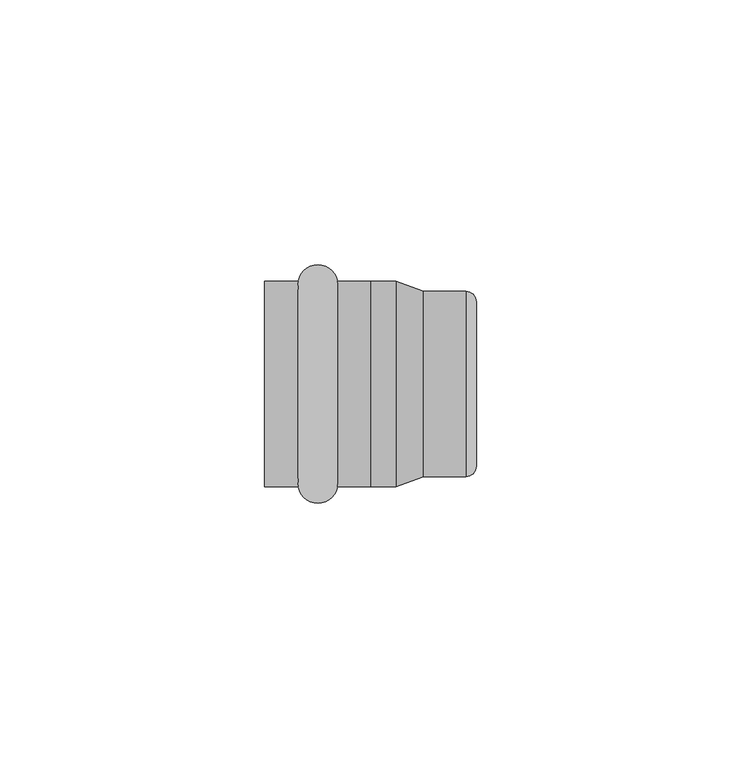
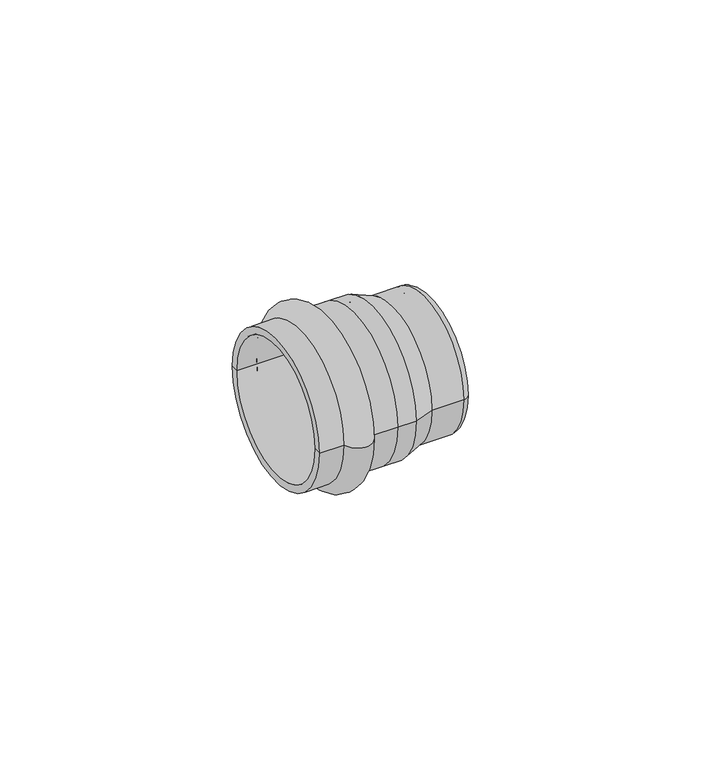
"""IFC4 building model written with IfcOpenShell, lengths in millimetres: pipe fitting geometry, VALTEC_VTi.961.I_Заглушка_нержавеющая : VTi.961.I."""

from ifc_helpers import new_model, si_unit, point, frame, origin, place, context, project, spatial, polyline, circle_curve, ellipse_curve, trimmed, source, transform, mapped, element, save
from ifc_brep_helpers import plane_surface, cylinder_surface, revolved_surface, advanced_brep


def pipe_fitting_70ba1705(model_context):
    return source(origin(), model_context, "Body", "AdvancedBrep", [
        advanced_brep(
        [(6.3567629, -19.4, 0.0), (6.3567629, 19.4, 0.0), (13.7432371, 19.4, 0.0), (13.7432371, -19.4, 0.0), (0.0, -19.4, 0.0), (0.0, 19.4, 0.0), (0.0, -17.5, 0.0), (0.0, 17.5, 0.0), (20.0, -17.5, 0.0), (20.0, 17.5, 0.0), (20.0, -19.4, 0.0), (20.0, 19.4, 0.0)],
        [
            (0, 1, circle_curve(frame((6.3567629, 0.0, 0.0), z_axis=(1.0, 0.0, 0.0), x_axis=(0.0, 1.0, 0.0)), 19.4)),
            (1, 2, circle_curve(frame((10.05, 18.75, 0.0), z_axis=(0.0, 0.0, -1.0), x_axis=(1.0, 0.0, 0.0)), 3.75)),
            (2, 3, circle_curve(frame((13.7432371, 0.0, 0.0), z_axis=(-1.0, 0.0, 0.0), x_axis=(0.0, 1.0, 0.0)), 19.4)),
            (3, 0, circle_curve(frame((10.05, -18.75, 0.0), z_axis=(0.0, 0.0, -1.0), x_axis=(1.0, 0.0, 0.0)), 3.75)),
            (1, 0, circle_curve(frame((6.3567629, 0.0, 0.0), z_axis=(1.0, 0.0, 0.0), x_axis=(0.0, 1.0, 0.0)), 19.4)),
            (3, 2, circle_curve(frame((13.7432371, 0.0, 0.0), z_axis=(-1.0, 0.0, 0.0), x_axis=(0.0, 1.0, 0.0)), 19.4)),
            (4, 5, circle_curve(frame((0.0, 0.0, 0.0), z_axis=(1.0, 0.0, 0.0), x_axis=(0.0, 1.0, 0.0)), 19.4)),
            (5, 1),
            (0, 4),
            (5, 4, circle_curve(frame((0.0, 0.0, 0.0), z_axis=(1.0, 0.0, 0.0), x_axis=(0.0, 1.0, 0.0)), 19.4)),
            (6, 7, circle_curve(frame((0.0, 0.0, 0.0), z_axis=(1.0, 0.0, 0.0), x_axis=(0.0, 1.0, 0.0)), 17.5)),
            (7, 5),
            (4, 6),
            (7, 6, circle_curve(frame((0.0, 0.0, 0.0), z_axis=(1.0, 0.0, 0.0), x_axis=(0.0, 1.0, 0.0)), 17.5)),
            (8, 9, circle_curve(frame((20.0, 0.0, 0.0), z_axis=(1.0, 0.0, 0.0), x_axis=(0.0, 1.0, 0.0)), 17.5)),
            (9, 7),
            (6, 8),
            (9, 8, circle_curve(frame((20.0, 0.0, 0.0), z_axis=(1.0, 0.0, 0.0), x_axis=(0.0, 1.0, 0.0)), 17.5)),
            (10, 11, circle_curve(frame((20.0, 0.0, 0.0), z_axis=(1.0, 0.0, 0.0), x_axis=(0.0, 1.0, 0.0)), 19.4)),
            (11, 9),
            (8, 10),
            (11, 10, circle_curve(frame((20.0, 0.0, 0.0), z_axis=(1.0, 0.0, 0.0), x_axis=(0.0, 1.0, 0.0)), 19.4)),
            (2, 11),
            (10, 3),
        ],
        [
            revolved_surface(trimmed(ellipse_curve(frame((10.05, 18.75, 0.0), z_axis=(0.0, 0.0, 1.0), x_axis=(1.0, 0.0, 0.0)), 3.75, 3.75), [point((13.7432371, 19.4, 0.0))], [point((6.3567629, 19.4, 0.0))], True, "CARTESIAN"), (-3.5364426, 0.0, 0.0), (-1.0, 0.0, 0.0)),
            cylinder_surface(frame((-3.5364426, 0.0, 0.0), z_axis=(-1.0, 0.0, 0.0), x_axis=(0.0, 1.0, 0.0)), 19.4),
            plane_surface(frame((0.0, 0.0, 0.0), z_axis=(-1.0, 0.0, 0.0), x_axis=(0.0, 1.0, 0.0))),
            revolved_surface(polyline([(0.0, 17.5, 0.0), (20.0, 17.5, 0.0)]), (-3.5364426, 0.0, 0.0), (-1.0, 0.0, 0.0)),
            plane_surface(frame((20.0, 0.0, 0.0), z_axis=(1.0, 0.0, 0.0), x_axis=(0.0, 1.0, 0.0))),
        ],
        [
            (0, [[1, 2, 3, 4]]),
            (0, [[5, -4, 6, -2]]),
            (1, [[7, 8, -1, 9]]),
            (1, [[10, -9, -5, -8]]),
            (2, [[11, 12, -7, 13]]),
            (2, [[14, -13, -10, -12]]),
            (3, [[15, 16, -11, 17]]),
            (3, [[18, -17, -14, -16]]),
            (4, [[19, 20, -15, 21]]),
            (4, [[22, -21, -18, -20]]),
            (1, [[-3, 23, -19, 24]]),
            (1, [[-6, -24, -22, -23]]),
        ],
    ),
        advanced_brep(
        [(20.0, -19.4, 0.0), (20.0, 19.4, 0.0), (24.7797929, 19.4, 0.0), (24.7797929, -19.4, 0.0), (24.7797929, -17.5, 0.0), (24.7797929, 17.5, 0.0), (20.0, 17.5, 0.0), (20.0, -17.5, 0.0), (38.1, -15.6, 0.0), (38.1, 15.6, 0.0), (30.0, 15.6, 0.0), (30.0, -15.6, 0.0), (38.1, 0.0, 0.0), (40.0, -15.5, 0.0), (40.0, 15.5, 0.0), (40.0, 0.0, 0.0), (30.0, -17.5, 0.0), (30.0, 17.5, 0.0), (38.0, 17.5, 0.0), (38.0, -17.5, 0.0)],
        [
            (0, 1, circle_curve(frame((20.0, 0.0, 0.0), z_axis=(1.0, 0.0, 0.0), x_axis=(0.0, 1.0, 0.0)), 19.4)),
            (1, 2),
            (2, 3, circle_curve(frame((24.7797929, 0.0, 0.0), z_axis=(-1.0, 0.0, 0.0), x_axis=(0.0, 1.0, 0.0)), 19.4)),
            (3, 0),
            (1, 0, circle_curve(frame((20.0, 0.0, 0.0), z_axis=(1.0, 0.0, 0.0), x_axis=(0.0, 1.0, 0.0)), 19.4)),
            (3, 2, circle_curve(frame((24.7797929, 0.0, 0.0), z_axis=(-1.0, 0.0, 0.0), x_axis=(0.0, 1.0, 0.0)), 19.4)),
            (4, 5, circle_curve(frame((24.7797929, 0.0, 0.0), z_axis=(1.0, 0.0, 0.0), x_axis=(0.0, 1.0, 0.0)), 17.5)),
            (5, 6),
            (6, 7, circle_curve(frame((20.0, 0.0, 0.0), z_axis=(-1.0, 0.0, 0.0), x_axis=(0.0, 1.0, 0.0)), 17.5)),
            (7, 4),
            (5, 4, circle_curve(frame((24.7797929, 0.0, 0.0), z_axis=(1.0, 0.0, 0.0), x_axis=(0.0, 1.0, 0.0)), 17.5)),
            (7, 6, circle_curve(frame((20.0, 0.0, 0.0), z_axis=(-1.0, 0.0, 0.0), x_axis=(0.0, 1.0, 0.0)), 17.5)),
            (6, 1),
            (0, 7),
            (8, 9, circle_curve(frame((38.1, 0.0, 0.0), z_axis=(1.0, 0.0, 0.0), x_axis=(0.0, 1.0, 0.0)), 15.6)),
            (9, 10),
            (10, 11, circle_curve(frame((30.0, 0.0, 0.0), z_axis=(-1.0, 0.0, 0.0), x_axis=(0.0, 1.0, 0.0)), 15.6)),
            (11, 8),
            (9, 8, circle_curve(frame((38.1, 0.0, 0.0), z_axis=(1.0, 0.0, 0.0), x_axis=(0.0, 1.0, 0.0)), 15.6)),
            (11, 10, circle_curve(frame((30.0, 0.0, 0.0), z_axis=(-1.0, 0.0, 0.0), x_axis=(0.0, 1.0, 0.0)), 15.6)),
            (12, 9),
            (8, 12),
            (13, 14, circle_curve(frame((40.0, 0.0, 0.0), z_axis=(1.0, 0.0, 0.0), x_axis=(0.0, 1.0, 0.0)), 15.5)),
            (14, 15),
            (15, 13),
            (14, 13, circle_curve(frame((40.0, 0.0, 0.0), z_axis=(1.0, 0.0, 0.0), x_axis=(0.0, 1.0, 0.0)), 15.5)),
            (16, 17, circle_curve(frame((30.0, 0.0, 0.0), z_axis=(1.0, 0.0, 0.0), x_axis=(0.0, 1.0, 0.0)), 17.5)),
            (17, 18),
            (18, 19, circle_curve(frame((38.0, 0.0, 0.0), z_axis=(-1.0, 0.0, 0.0), x_axis=(0.0, 1.0, 0.0)), 17.5)),
            (19, 16),
            (17, 16, circle_curve(frame((30.0, 0.0, 0.0), z_axis=(1.0, 0.0, 0.0), x_axis=(0.0, 1.0, 0.0)), 17.5)),
            (19, 18, circle_curve(frame((38.0, 0.0, 0.0), z_axis=(-1.0, 0.0, 0.0), x_axis=(0.0, 1.0, 0.0)), 17.5)),
            (2, 17),
            (16, 3),
            (10, 5),
            (4, 11),
            (18, 14, circle_curve(frame((38.0, 15.5, 0.0), z_axis=(0.0, 0.0, -1.0), x_axis=(1.0, 0.0, 0.0)), 2.0)),
            (13, 19, circle_curve(frame((38.0, -15.5, 0.0), z_axis=(0.0, 0.0, -1.0), x_axis=(1.0, 0.0, 0.0)), 2.0)),
        ],
        [
            cylinder_surface(frame((-40.0167378, 0.0, 0.0), z_axis=(-1.0, 0.0, 0.0), x_axis=(0.0, 1.0, 0.0)), 19.4),
            revolved_surface(polyline([(20.0, 17.5, 0.0), (24.779792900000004, 17.5, 0.0)]), (-40.0167378, 0.0, 0.0), (-1.0, 0.0, 0.0)),
            plane_surface(frame((20.0, 0.0, 0.0), z_axis=(-1.0, 0.0, 0.0), x_axis=(0.0, 1.0, 0.0))),
            revolved_surface(polyline([(30.0, 15.6, 0.0), (38.10000000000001, 15.6, 0.0)]), (-40.0167378, 0.0, 0.0), (-1.0, 0.0, 0.0)),
            plane_surface(frame((38.1, 0.0, 0.0), z_axis=(-1.0, 0.0, 0.0), x_axis=(0.0, 1.0, 0.0))),
            plane_surface(frame((40.0, 0.0, 0.0), z_axis=(1.0, 0.0, 0.0), x_axis=(0.0, 1.0, 0.0))),
            cylinder_surface(frame((-40.0167378, 0.0, 0.0), z_axis=(-1.0, 0.0, 0.0), x_axis=(0.0, 1.0, 0.0)), 17.5),
            revolved_surface(polyline([(30.0, 17.5, 0.0), (24.7797929, 19.4, 0.0)]), (-40.0167378, 0.0, 0.0), (-1.0, 0.0, 0.0)),
            revolved_surface(polyline([(24.7797929, 17.5, 0.0), (30.0, 15.6, 0.0)]), (-40.0167378, 0.0, 0.0), (-1.0, 0.0, 0.0)),
            revolved_surface(trimmed(ellipse_curve(frame((38.0, 15.5, 0.0), z_axis=(0.0, 0.0, 1.0), x_axis=(1.0, 0.0, 0.0)), 2.0, 2.0), [point((40.0, 15.5, 0.0))], [point((38.0, 17.5, 0.0))], True, "CARTESIAN"), (-40.0167378, 0.0, 0.0), (-1.0, 0.0, 0.0)),
        ],
        [
            (0, [[1, 2, 3, 4]]),
            (0, [[5, -4, 6, -2]]),
            (1, [[7, 8, 9, 10]]),
            (1, [[11, -10, 12, -8]]),
            (2, [[-9, 13, -1, 14]]),
            (2, [[-12, -14, -5, -13]]),
            (3, [[15, 16, 17, 18]]),
            (3, [[19, -18, 20, -16]]),
            (4, [[21, -15, 22]]),
            (4, [[-22, -19, -21]]),
            (5, [[23, 24, 25]]),
            (5, [[26, -25, -24]]),
            (6, [[27, 28, 29, 30]]),
            (6, [[31, -30, 32, -28]]),
            (7, [[-3, 33, -27, 34]]),
            (7, [[-6, -34, -31, -33]]),
            (8, [[-17, 35, -7, 36]]),
            (8, [[-20, -36, -11, -35]]),
            (9, [[-29, 37, -23, 38]]),
            (9, [[-32, -38, -26, -37]]),
        ],
    ),
    ])


if __name__ == "__main__":
    model = new_model("IFC4")
    model_context = context("Model", 3, world=origin())
    ifc_project = project(units=[si_unit("LENGTHUNIT", "METRE", prefix="MILLI")], contexts=[model_context])
    site = spatial("IfcSite", under=ifc_project)
    building = spatial("IfcBuilding", under=site)
    placement = place(None, origin())
    pipe_fitting_shape = pipe_fitting_70ba1705(model_context)
    element("IfcPipeFitting", 1, ObjectType="VALTEC_VTi.961.I_Заглушка_нержавеющая : VTi.961.I", at=placement, inside=building, context=model_context, shape_type="MappedRepresentation", body=[
        mapped(pipe_fitting_shape, transform((0.0, 0.0, 0.0), x_axis=(1.0, 0.0, 0.0), y_axis=(0.0, 1.0, 0.0), z_axis=(0.0, 0.0, 1.0))),
    ])
    save(model, "model.ifc")
